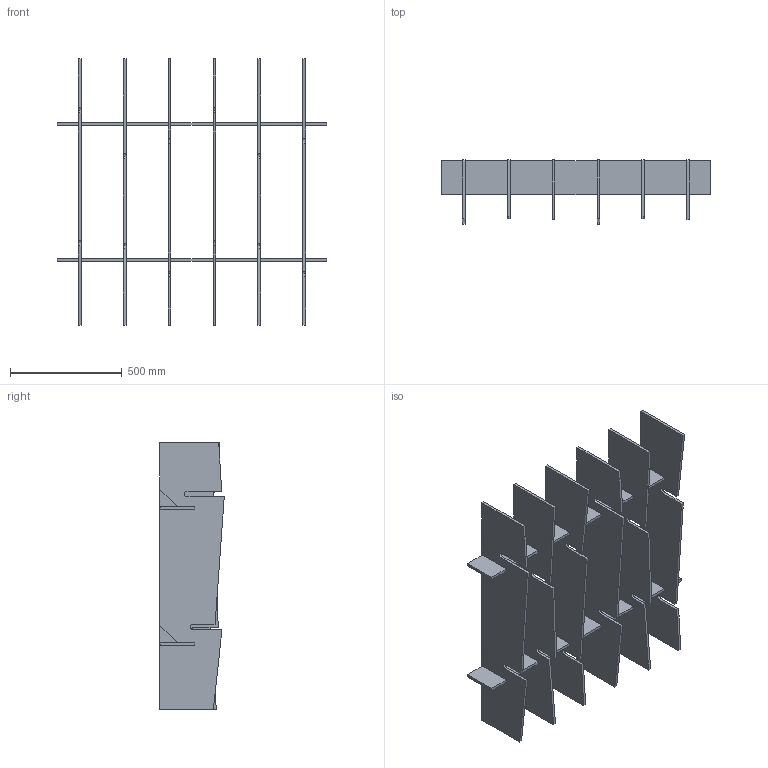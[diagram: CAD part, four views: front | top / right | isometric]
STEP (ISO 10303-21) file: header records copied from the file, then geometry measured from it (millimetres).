
FILE_DESCRIPTION(/* description */ (''),/* implementation_level */ '2;1');
FILE_NAME(/* name */ 'Y:\Design and Engineering\MaterialLogiq\CAD ASSETS\MASTER\BAFFLE\WEB ASSETS\PET BAFFLE_6FIN_4x4_10_SKYLINE.stp',/* time_stamp */ '2023-11-16T10:12:09-06:00',/* author */ ('Grant Baker'),/* organization */ (''),/* preprocessor_version */ 'ST-DEVELOPER v19',/* originating_system */ 'Autodesk Inventor 2023',/* authorisation */ '');
FILE_SCHEMA (('AUTOMOTIVE_DESIGN { 1 0 10303 214 3 1 1 }'));
Length unit declared in the file: inch
Products named in the file (5): PET BAFFLE_PARAMETRIC_11.02.2023; PET BAFFLE_BEAM; PET BAFFLE_48in_FIN_SKYLINE-1; PET BAFFLE_48in_FIN_SKYLINE-2; PET BAFFLE_48in_FIN_SKYLINE-3
Assembly tree (8 placements, depth 2):
  PET BAFFLE_PARAMETRIC_11.02.2023
    PET BAFFLE_BEAM  x2
    PET BAFFLE_48in_FIN_SKYLINE-1  x2
    PET BAFFLE_48in_FIN_SKYLINE-2  x2
    PET BAFFLE_48in_FIN_SKYLINE-3  x2
Bounding box: 1206.5 x 289.09 x 1193.8 mm (x, y, z)
Volume: 25854854.4 mm3; surface area: 4613243.3 mm2
Topology: 20 solids, 20 shells, 368 faces, 984 edges, 656 vertices
Faces by surface type: plane 348, cylinder 20
Entity records: 5847 total; most frequent: CARTESIAN_POINT 1017, ORIENTED_EDGE 984, DIRECTION 906, EDGE_CURVE 492, LINE 472, VECTOR 472, VERTEX_POINT 328, AXIS2_PLACEMENT_3D 217
